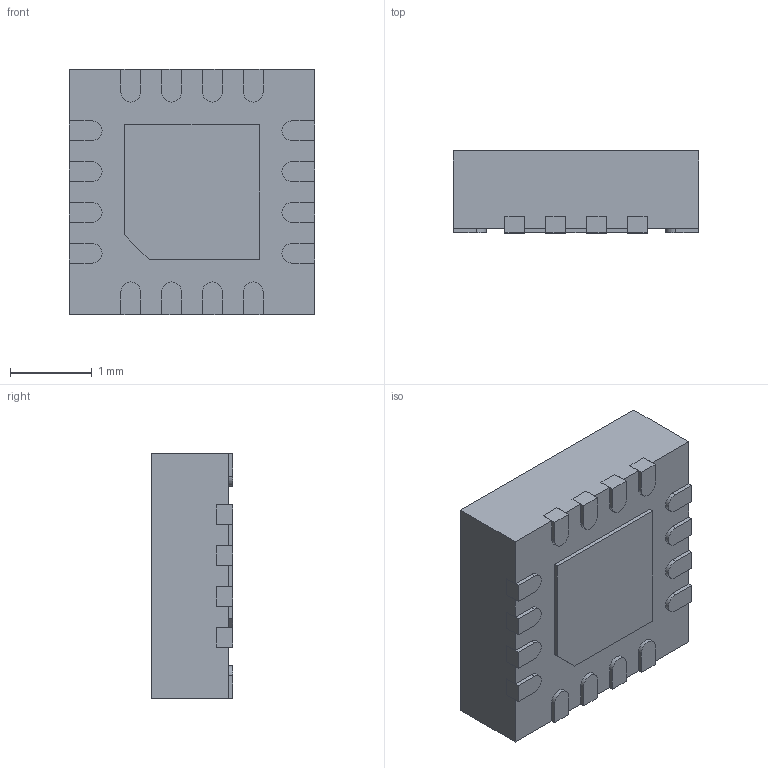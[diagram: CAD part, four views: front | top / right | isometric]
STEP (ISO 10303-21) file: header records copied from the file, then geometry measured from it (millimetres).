
FILE_DESCRIPTION(/* description */ ('STEP AP214'),/* implementation_level */ '2;1');
FILE_NAME(/* name */ 'METUPowerLab_Sensors_Encoders_16-VFQFN_.step',/* time_stamp */ '2025-06-27T23:25:20+03:00',/* author */ (''),/* organization */ (''),/* preprocessor_version */ 'ST-DEVELOPER v20.1',/* originating_system */ 'Autodesk Translation Framework v14.10.0.0',/* authorisation */ '');
FILE_SCHEMA (('AUTOMOTIVE_DESIGN { 1 0 10303 214 3 1 1 }'));
Length unit declared in the file: millimetre
Products named in the file (1): MA730GQ-Z
Bounding box: 3 x 1 x 3 mm (x, y, z)
Volume: 8.8 mm3; surface area: 45.6 mm2
Topology: 19 solids, 19 shells, 184 faces, 432 edges, 288 vertices
Faces by surface type: plane 150, cylinder 34
Full cylindrical faces by diameter (mm): 0.3 x2
Entity records: 5260 total; most frequent: CARTESIAN_POINT 905, DIRECTION 870, ORIENTED_EDGE 864, EDGE_CURVE 432, LINE 364, VECTOR 364, VERTEX_POINT 288, AXIS2_PLACEMENT_3D 253
